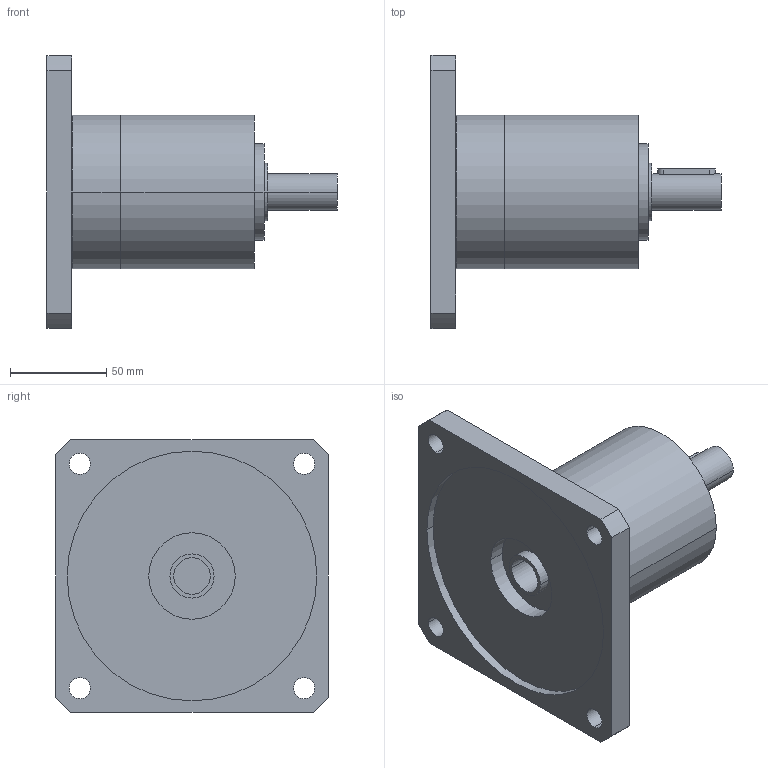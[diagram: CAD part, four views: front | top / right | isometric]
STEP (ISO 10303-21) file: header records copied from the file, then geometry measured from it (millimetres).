
FILE_DESCRIPTION(('CoCreate Modeling STEP Export'),'2;1');
FILE_NAME('GPR100_ig-3-4-5-6_19_B14_19_P16.stp','2014-08-26T10:08:43',(''),(''),'CoCreate Modeling STEP processor for AP214 (Solid Model)','CoCreate Modeling 16.00C 25-Feb-2009 (C) Parametric Technology GmbH','');
FILE_SCHEMA(('AUTOMOTIVE_DESIGN { 1 0 10303 214 1 1 1 1 }'));
Length unit declared in the file: millimetre
Products named in the file (2): GPR100_ig-3-4-5-6_19_B14_19_P16
Assembly tree (1 placements, depth 2):
  GPR100_ig-3-4-5-6_19_B14_19_P16
    GPR100_ig-3-4-5-6_19_B14_19_P16
Bounding box: 151 x 142 x 142 mm (x, y, z)
Volume: 671994.9 mm3; surface area: 82847.1 mm2
Topology: 1 solids, 1 shells, 70 faces, 188 edges, 132 vertices
Faces by surface type: cylinder 42, plane 22, cone 6
Entity records: 1939 total; most frequent: ORIENTED_EDGE 372, CARTESIAN_POINT 360, DIRECTION 262, EDGE_CURVE 186, VERTEX_POINT 132, AXIS2_PLACEMENT_3D 98, EDGE_LOOP 92, FACE_OUTER_BOUND 70
